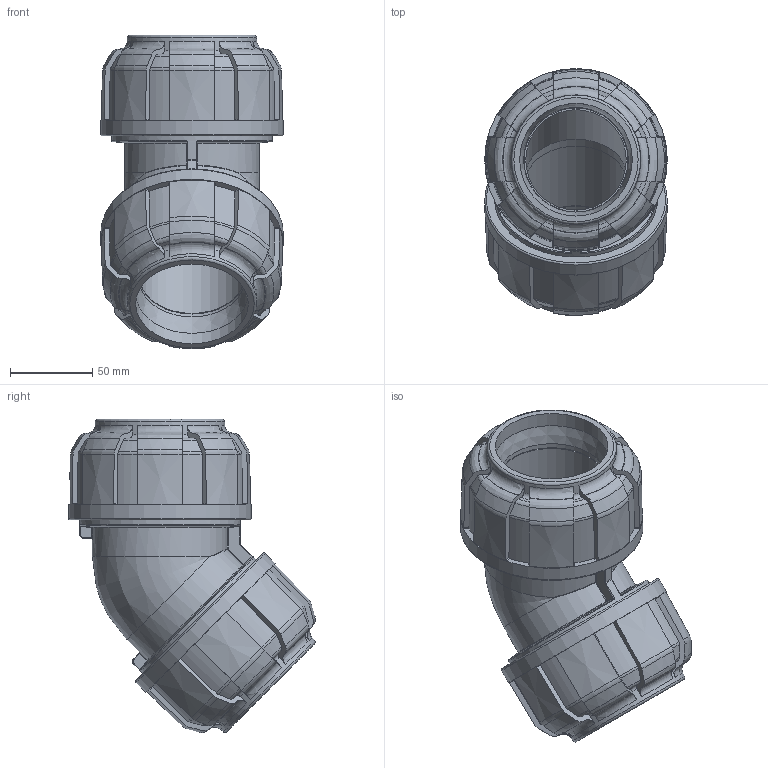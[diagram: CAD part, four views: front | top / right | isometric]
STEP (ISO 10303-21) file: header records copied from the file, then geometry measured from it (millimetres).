
FILE_DESCRIPTION( ( 'STEP AP214' ), '1' );
FILE_NAME( ' ', ' ', ( ' ' ), ( ' ' ), 'PSStep 11.0', 'VISI 17.0', ' ' );
FILE_SCHEMA( ( 'AUTOMOTIVE_DESIGN { 1 0 10303 214 1 1 1 1 }' ) );
Length unit declared in the file: millimetre
Products named in the file (3): 1; 2; 3
Bounding box: 110.9 x 149.82 x 190.32 mm (x, y, z)
Volume: 784438.6 mm3; surface area: 176043.6 mm2
Topology: 3 solids, 3 shells, 613 faces, 1708 edges, 1103 vertices
Faces by surface type: plane 240, torus 125, cone 124, cylinder 82, bspline 34, sphere 8
Full cylindrical faces by diameter (mm): 61 x2, 63.87 x2, 64 x2, 68.449 x2, 85 x2, 86 x4, 86.393 x2, 90 x2, 91.6 x2, 93 x2, 97.6 x2, 99 x2, 110.9 x2
Entity records: 30632 total; most frequent: CARTESIAN_POINT 11355, ORIENTED_EDGE 3228, DIRECTION 2692, EDGE_CURVE 1614, AXIS2_PLACEMENT_3D 1166, VERTEX_POINT 1077, EDGE_LOOP 689, B_SPLINE_CURVE_WITH_KNOTS 670
